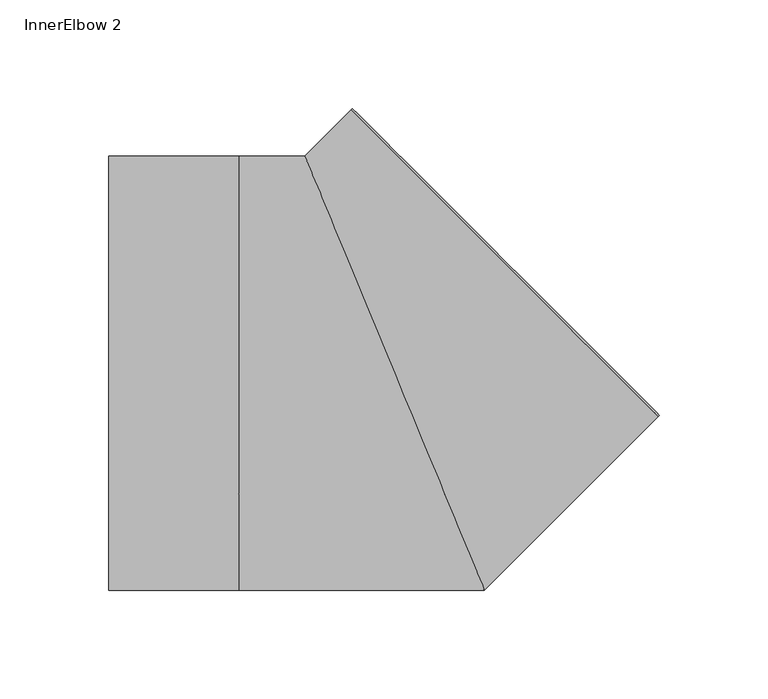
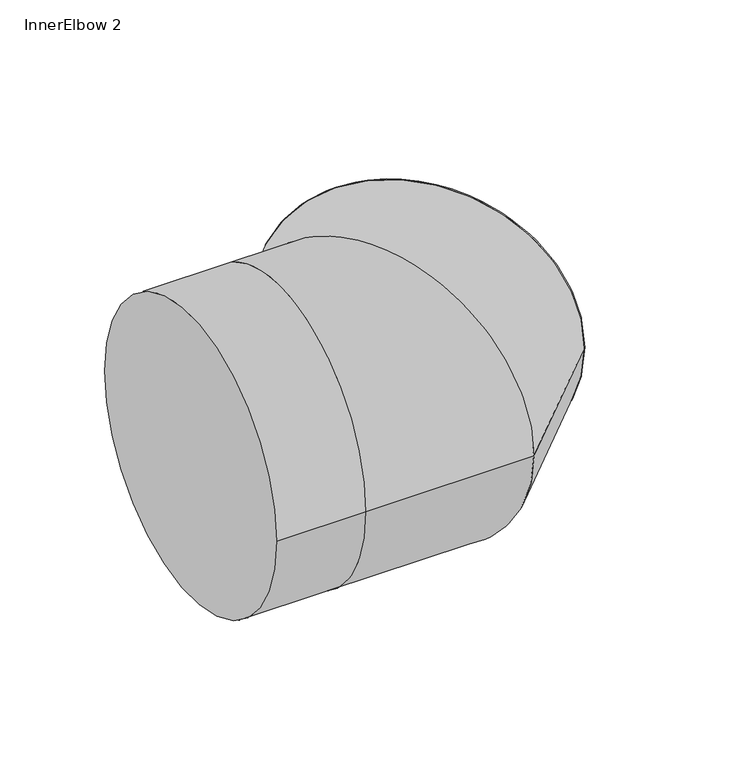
"""IFC4 building model written with IfcOpenShell, lengths in millimetres: pipe fitting geometry, CADS_Jeremias_InnerElbowSocket1 : InnerElbow 2."""

from ifc_helpers import new_model, si_unit, frame, origin, place, context, project, spatial, circle_curve, ellipse_curve, source, transform, mapped, element, save
from ifc_brep_helpers import plane_surface, cylinder_surface, advanced_brep


def innerelbow_2_78ffe8cd(model_context):
    return source(origin(), model_context, "Body", "AdvancedBrep", [
        advanced_brep(
        [(-131.7766953, -100.0, 0.0), (-131.7766953, 100.0, 0.0), (-71.7766953, -100.0, 0.0), (-71.7766953, 100.0, 0.0), (122.0301515, -19.3912047, 0.0), (-19.3912047, 122.0301515, 0.0), (-19.9568901, 121.4644661, 0.0), (121.4644661, -19.9568901, 0.0), (41.4213562, -100.0, 0.0), (-41.4213562, 100.0, 0.0)],
        [
            (0, 1, circle_curve(frame((-131.7766953, 0.0, 0.0), z_axis=(-1.0, 0.0, 0.0), x_axis=(0.0, 1.0, 0.0)), 100.0)),
            (1, 0, circle_curve(frame((-131.7766953, 0.0, 0.0), z_axis=(-1.0, 0.0, 0.0), x_axis=(0.0, 1.0, 0.0)), 100.0)),
            (0, 2),
            (2, 3, circle_curve(frame((-71.7766953, 0.0, 0.0), z_axis=(-1.0, 0.0, 0.0), x_axis=(0.0, 1.0, 0.0)), 100.0)),
            (3, 1),
            (3, 2, circle_curve(frame((-71.7766953, 0.0, 0.0), z_axis=(-1.0, 0.0, 0.0), x_axis=(0.0, 1.0, 0.0)), 100.0)),
            (4, 5, circle_curve(frame((51.3194734, 51.3194734, 0.0), z_axis=(0.7071067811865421, 0.707106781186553, 0.0), x_axis=(-0.707106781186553, 0.7071067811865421, 0.0)), 100.0)),
            (5, 4, circle_curve(frame((51.3194734, 51.3194734, 0.0), z_axis=(0.7071067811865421, 0.707106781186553, 0.0), x_axis=(-0.707106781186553, 0.7071067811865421, 0.0)), 100.0)),
            (5, 6),
            (6, 7, circle_curve(frame((50.753788, 50.753788, 0.0), z_axis=(0.7071067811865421, 0.707106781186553, 0.0), x_axis=(-0.707106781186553, 0.7071067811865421, 0.0)), 100.0)),
            (7, 4),
            (7, 6, circle_curve(frame((50.753788, 50.753788, 0.0), z_axis=(0.7071067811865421, 0.707106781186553, 0.0), x_axis=(-0.707106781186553, 0.7071067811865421, 0.0)), 100.0)),
            (2, 8),
            (8, 9, ellipse_curve(frame((0.0, 0.0, 0.0), z_axis=(-0.9238795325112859, -0.38268343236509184, 0.0), x_axis=(-0.38268343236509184, 0.923879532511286, 0.0)), 108.23922, 100.0)),
            (9, 3),
            (9, 8, ellipse_curve(frame((0.0, 0.0, 0.0), z_axis=(-0.9238795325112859, -0.38268343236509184, 0.0), x_axis=(-0.38268343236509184, 0.923879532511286, 0.0)), 108.23922, 100.0)),
            (6, 9),
            (8, 7),
        ],
        [
            plane_surface(frame((-131.7766953, 0.0, 0.0), z_axis=(-1.0, 0.0, 0.0), x_axis=(0.0, 0.0, 1.0))),
            cylinder_surface(frame((-131.7766953, 0.0, 0.0), z_axis=(-1.0, 0.0, 0.0), x_axis=(0.0, 1.0, 0.0)), 100.0),
            plane_surface(frame((51.3194734, 51.3194734, 0.0), z_axis=(0.7071067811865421, 0.707106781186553, 0.0), x_axis=(0.0, 0.0, 1.0))),
            cylinder_surface(frame((50.753788, 50.753788, 0.0), z_axis=(-0.7071067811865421, -0.707106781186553, 0.0), x_axis=(-0.707106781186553, 0.7071067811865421, 0.0)), 100.0),
            cylinder_surface(frame((-71.7766953, 0.0, 0.0), z_axis=(-1.0, 0.0, 0.0), x_axis=(0.0, 1.0, 0.0)), 100.0),
            cylinder_surface(frame((0.0, 0.0, 0.0), z_axis=(-0.7071067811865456, -0.7071067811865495, 0.0), x_axis=(-0.7071067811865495, 0.7071067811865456, 0.0)), 100.0),
        ],
        [
            (0, [[1, 2]]),
            (1, [[-1, 3, 4, 5]]),
            (1, [[-2, -5, 6, -3]]),
            (2, [[7, 8]]),
            (3, [[-8, 9, 10, 11]]),
            (3, [[-7, -11, 12, -9]]),
            (4, [[-4, 13, 14, 15]]),
            (4, [[-6, -15, 16, -13]]),
            (5, [[-10, 17, -14, 18]]),
            (5, [[-12, -18, -16, -17]]),
        ],
    ),
    ])


if __name__ == "__main__":
    model = new_model("IFC4")
    model_context = context("Model", 3, world=origin())
    ifc_project = project(units=[si_unit("LENGTHUNIT", "METRE", prefix="MILLI")], contexts=[model_context])
    site = spatial("IfcSite", under=ifc_project)
    building = spatial("IfcBuilding", under=site)
    placement = place(None, origin())
    innerelbow_2_shape = innerelbow_2_78ffe8cd(model_context)
    element("IfcPipeFitting", 1, ObjectType="CADS_Jeremias_InnerElbowSocket1 : InnerElbow 2", at=placement, inside=building, context=model_context, shape_type="MappedRepresentation", body=[
        mapped(innerelbow_2_shape, transform((0.0, 0.0, 0.0), x_axis=(1.0, 0.0, 0.0), y_axis=(0.0, 1.0, 0.0), z_axis=(0.0, 0.0, 1.0))),
    ])
    save(model, "model.ifc")
